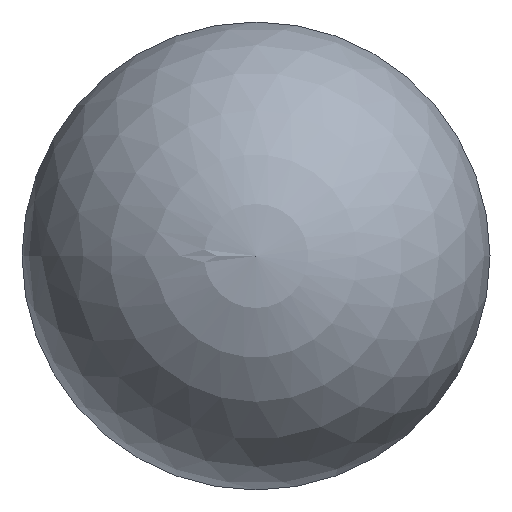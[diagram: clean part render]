
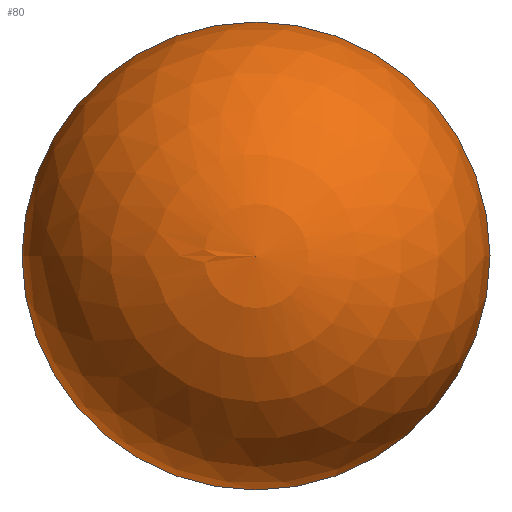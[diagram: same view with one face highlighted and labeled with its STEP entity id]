
A CAD part, left-side view. The second image highlights one B-rep face of the part: STEP entity #80.
In plain terms, the highlighted spherical face has radius 2 mm.
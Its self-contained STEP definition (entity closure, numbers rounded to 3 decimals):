
#80 = ADVANCED_FACE( '', ( #98, #99 ), #100, .T. );
#98 = FACE_BOUND( '', #118, .T. );
#99 = FACE_OUTER_BOUND( '', #119, .T. );
#100 = SPHERICAL_SURFACE( '', #120, 2. );
#118 = VERTEX_LOOP( '', #148 );
#119 = EDGE_LOOP( '', ( #149 ) );
#120 = AXIS2_PLACEMENT_3D( '', #150, #151, #152 );
#148 = VERTEX_POINT( '', #163 );
#149 = ORIENTED_EDGE( '', *, *, #162, .F. );
#150 = CARTESIAN_POINT( '', ( 2., 0., 0. ) );
#151 = DIRECTION( '', ( 1., 0., 0. ) );
#152 = DIRECTION( '', ( 0., 1., 0. ) );
#162 = EDGE_CURVE( '', #174, #174, #175, .T. );
#163 = CARTESIAN_POINT( '', ( 0., 0., 0. ) );
#174 = VERTEX_POINT( '', #186 );
#175 = CIRCLE( '', #187, 2. );
#186 = CARTESIAN_POINT( '', ( 2., 0., -2. ) );
#187 = AXIS2_PLACEMENT_3D( '', #203, #204, #205 );
#203 = CARTESIAN_POINT( '', ( 2., 0., 0. ) );
#204 = DIRECTION( '', ( 1., 0., 0. ) );
#205 = DIRECTION( '', ( 0., 0., -1. ) );
